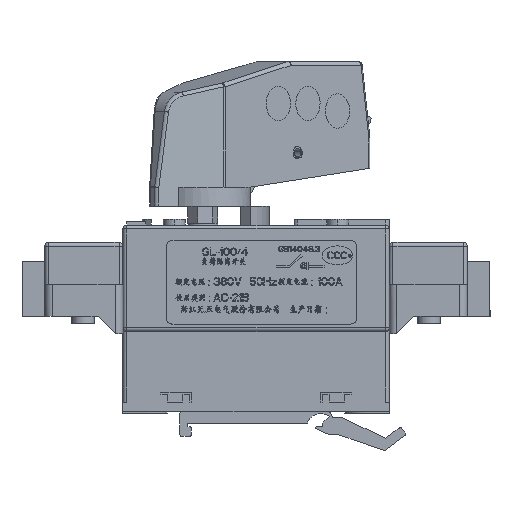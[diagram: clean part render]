
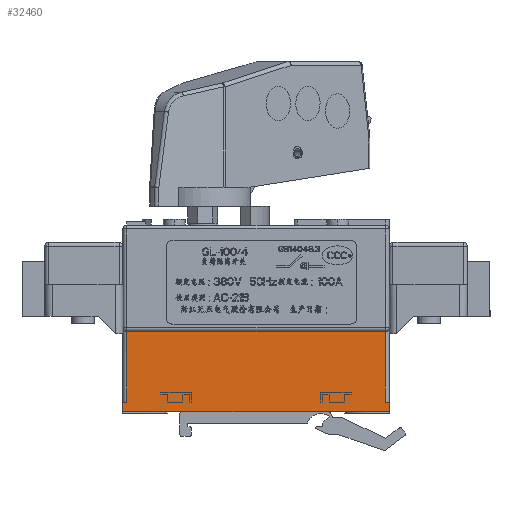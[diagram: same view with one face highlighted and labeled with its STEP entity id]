
A CAD part, left-side view. The second image highlights one B-rep face of the part: STEP entity #32460.
In plain terms, the highlighted planar face has unit normal (-1, 0, 0).
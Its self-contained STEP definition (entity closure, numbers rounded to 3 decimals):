
#1098 = ORIENTED_EDGE ( 'NONE', *, *, #105472, .F. ) ;
#2832 = VERTEX_POINT ( 'NONE', #132541 ) ;
#5383 = DIRECTION ( 'NONE',  ( 0., 1., 0. ) ) ;
#8933 = LINE ( 'NONE', #71093, #96774 ) ;
#10480 = VECTOR ( 'NONE', #100511, 1000. ) ;
#11477 = CARTESIAN_POINT ( 'NONE',  ( -38.747, 46.5, 35. ) ) ;
#11745 = PLANE ( 'NONE',  #83682 ) ;
#12610 = LINE ( 'NONE', #137899, #98835 ) ;
#12951 = LINE ( 'NONE', #87361, #20134 ) ;
#14521 = CARTESIAN_POINT ( 'NONE',  ( -38.747, 49., -18.489 ) ) ;
#20134 = VECTOR ( 'NONE', #197410, 1000. ) ;
#20675 = CARTESIAN_POINT ( 'NONE',  ( -38.747, 28., -34. ) ) ;
#21751 = VERTEX_POINT ( 'NONE', #184189 ) ;
#24504 = ORIENTED_EDGE ( 'NONE', *, *, #149336, .F. ) ;
#27699 = LINE ( 'NONE', #167279, #143238 ) ;
#27890 = CARTESIAN_POINT ( 'NONE',  ( -38.747, 46.5, 34. ) ) ;
#29903 = EDGE_CURVE ( 'NONE', #48195, #118115, #155485, .T. ) ;
#30118 = ORIENTED_EDGE ( 'NONE', *, *, #106327, .T. ) ;
#30963 = EDGE_CURVE ( 'NONE', #183235, #81008, #8933, .T. ) ;
#32312 = DIRECTION ( 'NONE',  ( 0., 0., -1. ) ) ;
#32460 = ADVANCED_FACE ( 'NONE', ( #133012 ), #11745, .F. ) ;
#35639 = VECTOR ( 'NONE', #5383, 1000. ) ;
#40162 = ORIENTED_EDGE ( 'NONE', *, *, #173927, .F. ) ;
#41038 = DIRECTION ( 'NONE',  ( 0., 1., 0. ) ) ;
#48195 = VERTEX_POINT ( 'NONE', #27890 ) ;
#51672 = EDGE_CURVE ( 'NONE', #183235, #2832, #12951, .T. ) ;
#54648 = CARTESIAN_POINT ( 'NONE',  ( -38.747, 49., 19.5 ) ) ;
#62776 = DIRECTION ( 'NONE',  ( 0., 0., 1. ) ) ;
#64615 = CARTESIAN_POINT ( 'NONE',  ( -38.747, 49., 35. ) ) ;
#69896 = DIRECTION ( 'NONE',  ( 0., 1., 0. ) ) ;
#71093 = CARTESIAN_POINT ( 'NONE',  ( -38.747, 46.5, -35. ) ) ;
#73608 = VERTEX_POINT ( 'NONE', #114814 ) ;
#73690 = LINE ( 'NONE', #106247, #136768 ) ;
#75095 = ORIENTED_EDGE ( 'NONE', *, *, #51672, .F. ) ;
#75558 = DIRECTION ( 'NONE',  ( 0., 0., -1. ) ) ;
#80208 = ORIENTED_EDGE ( 'NONE', *, *, #157643, .T. ) ;
#81008 = VERTEX_POINT ( 'NONE', #83288 ) ;
#81798 = ORIENTED_EDGE ( 'NONE', *, *, #135548, .F. ) ;
#83288 = CARTESIAN_POINT ( 'NONE',  ( -38.747, 46.5, -34. ) ) ;
#83682 = AXIS2_PLACEMENT_3D ( 'NONE', #119770, #147322, #69896 ) ;
#87361 = CARTESIAN_POINT ( 'NONE',  ( -38.747, 46.5, -35. ) ) ;
#96774 = VECTOR ( 'NONE', #100651, 1000. ) ;
#98835 = VECTOR ( 'NONE', #200071, 1000. ) ;
#99299 = VERTEX_POINT ( 'NONE', #64615 ) ;
#99465 = CARTESIAN_POINT ( 'NONE',  ( -38.747, 46.5, 35. ) ) ;
#100511 = DIRECTION ( 'NONE',  ( 0., 0., 1. ) ) ;
#100616 = EDGE_LOOP ( 'NONE', ( #30118, #40162, #75095, #196086, #24504, #81798, #1098, #163267, #80208, #140965 ) ) ;
#100651 = DIRECTION ( 'NONE',  ( 0., 0., 1. ) ) ;
#105256 = DIRECTION ( 'NONE',  ( 0., -1., 0. ) ) ;
#105472 = EDGE_CURVE ( 'NONE', #48195, #140008, #73690, .T. ) ;
#106247 = CARTESIAN_POINT ( 'NONE',  ( -38.747, 46.5, 34. ) ) ;
#106327 = EDGE_CURVE ( 'NONE', #21751, #119746, #138333, .T. ) ;
#107432 = CARTESIAN_POINT ( 'NONE',  ( -38.747, 28., 34. ) ) ;
#108165 = CARTESIAN_POINT ( 'NONE',  ( -38.747, 46.5, -35. ) ) ;
#109333 = EDGE_CURVE ( 'NONE', #21751, #99299, #176967, .T. ) ;
#114814 = CARTESIAN_POINT ( 'NONE',  ( -38.747, 28., -34. ) ) ;
#118115 = VERTEX_POINT ( 'NONE', #99465 ) ;
#119746 = VERTEX_POINT ( 'NONE', #14521 ) ;
#119770 = CARTESIAN_POINT ( 'NONE',  ( -38.747, 46.5, 35. ) ) ;
#132541 = CARTESIAN_POINT ( 'NONE',  ( -38.747, 49., -35. ) ) ;
#133012 = FACE_OUTER_BOUND ( 'NONE', #100616, .T. ) ;
#135548 = EDGE_CURVE ( 'NONE', #140008, #73608, #27699, .T. ) ;
#136220 = CARTESIAN_POINT ( 'NONE',  ( -38.747, 46.5, 34. ) ) ;
#136768 = VECTOR ( 'NONE', #105256, 1000. ) ;
#137899 = CARTESIAN_POINT ( 'NONE',  ( -38.747, 49., -35. ) ) ;
#138333 = LINE ( 'NONE', #200509, #159270 ) ;
#140008 = VERTEX_POINT ( 'NONE', #107432 ) ;
#140965 = ORIENTED_EDGE ( 'NONE', *, *, #109333, .F. ) ;
#143238 = VECTOR ( 'NONE', #75558, 1000. ) ;
#144984 = LINE ( 'NONE', #20675, #35639 ) ;
#147322 = DIRECTION ( 'NONE',  ( 1., 0., 0. ) ) ;
#149336 = EDGE_CURVE ( 'NONE', #73608, #81008, #144984, .T. ) ;
#152074 = LINE ( 'NONE', #11477, #154779 ) ;
#154779 = VECTOR ( 'NONE', #41038, 1000. ) ;
#155485 = LINE ( 'NONE', #136220, #187546 ) ;
#157643 = EDGE_CURVE ( 'NONE', #118115, #99299, #152074, .T. ) ;
#159270 = VECTOR ( 'NONE', #32312, 1000. ) ;
#163267 = ORIENTED_EDGE ( 'NONE', *, *, #29903, .T. ) ;
#167279 = CARTESIAN_POINT ( 'NONE',  ( -38.747, 28., 34. ) ) ;
#173927 = EDGE_CURVE ( 'NONE', #2832, #119746, #12610, .T. ) ;
#176967 = LINE ( 'NONE', #54648, #10480 ) ;
#183235 = VERTEX_POINT ( 'NONE', #108165 ) ;
#184189 = CARTESIAN_POINT ( 'NONE',  ( -38.747, 49., 19.5 ) ) ;
#187546 = VECTOR ( 'NONE', #62776, 1000. ) ;
#196086 = ORIENTED_EDGE ( 'NONE', *, *, #30963, .T. ) ;
#197410 = DIRECTION ( 'NONE',  ( 0., 1., 0. ) ) ;
#200071 = DIRECTION ( 'NONE',  ( 0., 0., 1. ) ) ;
#200509 = CARTESIAN_POINT ( 'NONE',  ( -38.747, 49., 19.5 ) ) ;
